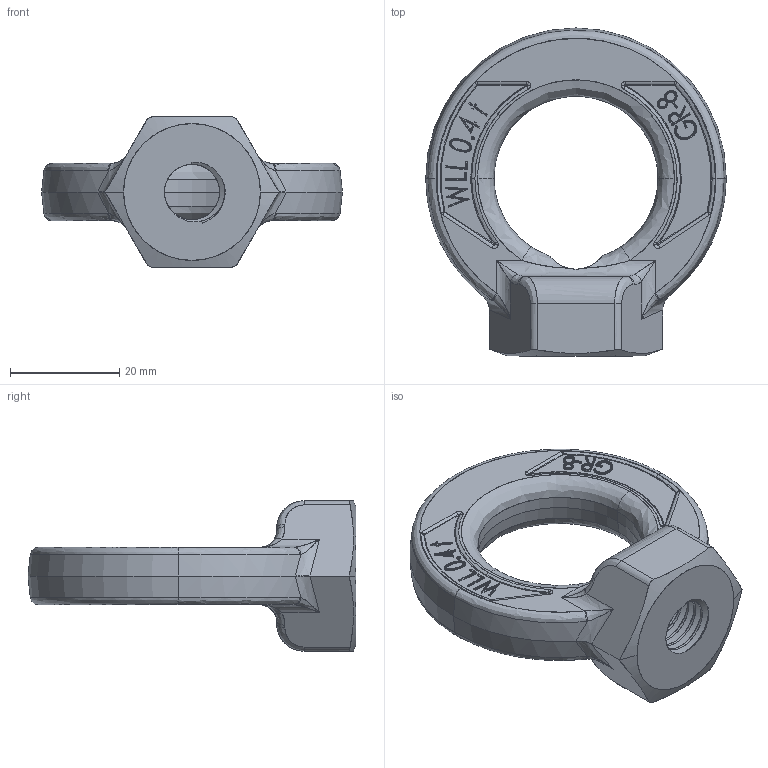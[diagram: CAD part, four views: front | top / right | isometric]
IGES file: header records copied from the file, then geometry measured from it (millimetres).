
Start section: SolidWorks IGES file using analytic representation for surfaces
Global section: file name: C:\Users\Brenton\Documents\Townley\HTEN\HTEN12\HTEN12.IGS; native system: SolidWorks 2012; preprocessor: SolidWorks 2012; author: Brenton; date: 150109.141530; units: millimetre
Bounding box: 55 x 60 x 27.5 mm (x, y, z)
Surface area: 7751.4 mm2 (no closed solid volume)
Topology: 0 solids, 0 shells, 786 faces, 7913 edges, 7880 vertices
Faces by surface type: bspline 506, revolution 280
